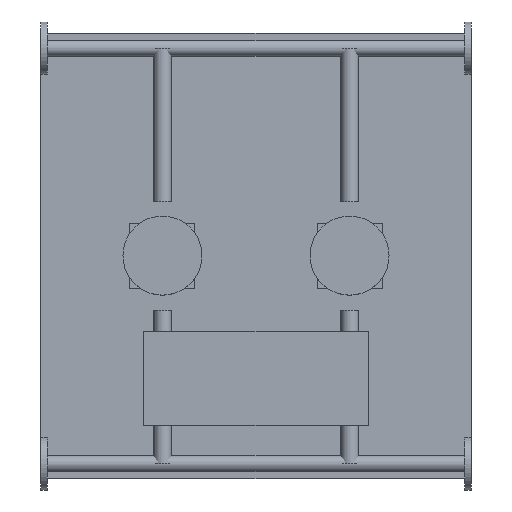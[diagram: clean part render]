
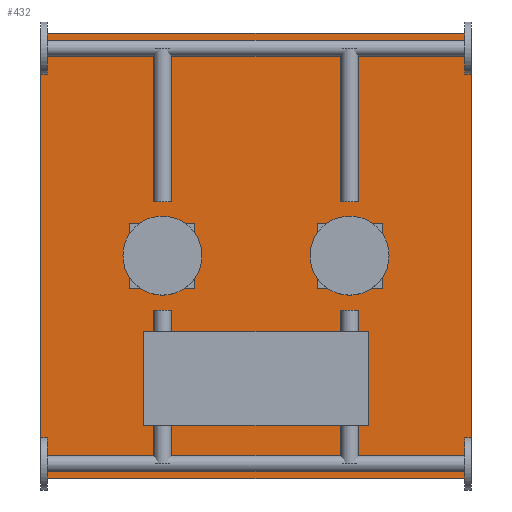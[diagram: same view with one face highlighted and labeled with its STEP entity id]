
A CAD part, top view. The second image highlights one B-rep face of the part: STEP entity #432.
In plain terms, the highlighted planar face has unit normal (0, 0, 1).
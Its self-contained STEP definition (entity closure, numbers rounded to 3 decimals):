
#118 = VERTEX_POINT('',#119);
#119 = CARTESIAN_POINT('',(0.,30.,120.));
#126 = PLANE('',#127);
#127 = AXIS2_PLACEMENT_3D('',#128,#129,#130);
#128 = CARTESIAN_POINT('',(0.,30.,0.));
#129 = DIRECTION('',(1.,0.,0.));
#130 = DIRECTION('',(0.,0.,1.));
#138 = PLANE('',#139);
#139 = AXIS2_PLACEMENT_3D('',#140,#141,#142);
#140 = CARTESIAN_POINT('',(0.,30.,0.));
#141 = DIRECTION('',(0.,1.,0.));
#142 = DIRECTION('',(0.,0.,1.));
#179 = VERTEX_POINT('',#180);
#180 = CARTESIAN_POINT('',(0.,1220.,120.));
#194 = PLANE('',#195);
#195 = AXIS2_PLACEMENT_3D('',#196,#197,#198);
#196 = CARTESIAN_POINT('',(0.,1220.,0.));
#197 = DIRECTION('',(0.,1.,0.));
#198 = DIRECTION('',(0.,0.,1.));
#206 = EDGE_CURVE('',#118,#179,#207,.T.);
#207 = SURFACE_CURVE('',#208,(#212,#219),.PCURVE_S1.);
#208 = LINE('',#209,#210);
#209 = CARTESIAN_POINT('',(0.,30.,120.));
#210 = VECTOR('',#211,1.);
#211 = DIRECTION('',(0.,1.,0.));
#212 = PCURVE('',#126,#213);
#213 = DEFINITIONAL_REPRESENTATION('',(#214),#218);
#214 = LINE('',#215,#216);
#215 = CARTESIAN_POINT('',(120.,0.));
#216 = VECTOR('',#217,1.);
#217 = DIRECTION('',(0.,-1.));
#218 = ( GEOMETRIC_REPRESENTATION_CONTEXT(2) 
PARAMETRIC_REPRESENTATION_CONTEXT() REPRESENTATION_CONTEXT('2D SPACE',''
  ) );
#219 = PCURVE('',#220,#225);
#220 = PLANE('',#221);
#221 = AXIS2_PLACEMENT_3D('',#222,#223,#224);
#222 = CARTESIAN_POINT('',(0.,30.,120.));
#223 = DIRECTION('',(0.,0.,1.));
#224 = DIRECTION('',(1.,0.,0.));
#225 = DEFINITIONAL_REPRESENTATION('',(#226),#230);
#226 = LINE('',#227,#228);
#227 = CARTESIAN_POINT('',(0.,0.));
#228 = VECTOR('',#229,1.);
#229 = DIRECTION('',(0.,1.));
#230 = ( GEOMETRIC_REPRESENTATION_CONTEXT(2) 
PARAMETRIC_REPRESENTATION_CONTEXT() REPRESENTATION_CONTEXT('2D SPACE',''
  ) );
#238 = VERTEX_POINT('',#239);
#239 = CARTESIAN_POINT('',(1150.,30.,120.));
#246 = PLANE('',#247);
#247 = AXIS2_PLACEMENT_3D('',#248,#249,#250);
#248 = CARTESIAN_POINT('',(1150.,30.,0.));
#249 = DIRECTION('',(1.,0.,0.));
#250 = DIRECTION('',(0.,0.,1.));
#289 = VERTEX_POINT('',#290);
#290 = CARTESIAN_POINT('',(1150.,1220.,120.));
#311 = EDGE_CURVE('',#238,#289,#312,.T.);
#312 = SURFACE_CURVE('',#313,(#317,#324),.PCURVE_S1.);
#313 = LINE('',#314,#315);
#314 = CARTESIAN_POINT('',(1150.,30.,120.));
#315 = VECTOR('',#316,1.);
#316 = DIRECTION('',(0.,1.,0.));
#317 = PCURVE('',#246,#318);
#318 = DEFINITIONAL_REPRESENTATION('',(#319),#323);
#319 = LINE('',#320,#321);
#320 = CARTESIAN_POINT('',(120.,0.));
#321 = VECTOR('',#322,1.);
#322 = DIRECTION('',(0.,-1.));
#323 = ( GEOMETRIC_REPRESENTATION_CONTEXT(2) 
PARAMETRIC_REPRESENTATION_CONTEXT() REPRESENTATION_CONTEXT('2D SPACE',''
  ) );
#324 = PCURVE('',#220,#325);
#325 = DEFINITIONAL_REPRESENTATION('',(#326),#330);
#326 = LINE('',#327,#328);
#327 = CARTESIAN_POINT('',(1150.,0.));
#328 = VECTOR('',#329,1.);
#329 = DIRECTION('',(0.,1.));
#330 = ( GEOMETRIC_REPRESENTATION_CONTEXT(2) 
PARAMETRIC_REPRESENTATION_CONTEXT() REPRESENTATION_CONTEXT('2D SPACE',''
  ) );
#357 = EDGE_CURVE('',#118,#238,#358,.T.);
#358 = SURFACE_CURVE('',#359,(#363,#370),.PCURVE_S1.);
#359 = LINE('',#360,#361);
#360 = CARTESIAN_POINT('',(0.,30.,120.));
#361 = VECTOR('',#362,1.);
#362 = DIRECTION('',(1.,0.,0.));
#363 = PCURVE('',#138,#364);
#364 = DEFINITIONAL_REPRESENTATION('',(#365),#369);
#365 = LINE('',#366,#367);
#366 = CARTESIAN_POINT('',(120.,0.));
#367 = VECTOR('',#368,1.);
#368 = DIRECTION('',(0.,1.));
#369 = ( GEOMETRIC_REPRESENTATION_CONTEXT(2) 
PARAMETRIC_REPRESENTATION_CONTEXT() REPRESENTATION_CONTEXT('2D SPACE',''
  ) );
#370 = PCURVE('',#220,#371);
#371 = DEFINITIONAL_REPRESENTATION('',(#372),#376);
#372 = LINE('',#373,#374);
#373 = CARTESIAN_POINT('',(0.,0.));
#374 = VECTOR('',#375,1.);
#375 = DIRECTION('',(1.,0.));
#376 = ( GEOMETRIC_REPRESENTATION_CONTEXT(2) 
PARAMETRIC_REPRESENTATION_CONTEXT() REPRESENTATION_CONTEXT('2D SPACE',''
  ) );
#404 = EDGE_CURVE('',#179,#289,#405,.T.);
#405 = SURFACE_CURVE('',#406,(#410,#417),.PCURVE_S1.);
#406 = LINE('',#407,#408);
#407 = CARTESIAN_POINT('',(0.,1220.,120.));
#408 = VECTOR('',#409,1.);
#409 = DIRECTION('',(1.,0.,0.));
#410 = PCURVE('',#194,#411);
#411 = DEFINITIONAL_REPRESENTATION('',(#412),#416);
#412 = LINE('',#413,#414);
#413 = CARTESIAN_POINT('',(120.,0.));
#414 = VECTOR('',#415,1.);
#415 = DIRECTION('',(0.,1.));
#416 = ( GEOMETRIC_REPRESENTATION_CONTEXT(2) 
PARAMETRIC_REPRESENTATION_CONTEXT() REPRESENTATION_CONTEXT('2D SPACE',''
  ) );
#417 = PCURVE('',#220,#418);
#418 = DEFINITIONAL_REPRESENTATION('',(#419),#423);
#419 = LINE('',#420,#421);
#420 = CARTESIAN_POINT('',(0.,1190.));
#421 = VECTOR('',#422,1.);
#422 = DIRECTION('',(1.,0.));
#423 = ( GEOMETRIC_REPRESENTATION_CONTEXT(2) 
PARAMETRIC_REPRESENTATION_CONTEXT() REPRESENTATION_CONTEXT('2D SPACE',''
  ) );
#432 = ADVANCED_FACE('',(#433),#220,.T.);
#433 = FACE_BOUND('',#434,.T.);
#434 = EDGE_LOOP('',(#435,#436,#437,#438));
#435 = ORIENTED_EDGE('',*,*,#206,.F.);
#436 = ORIENTED_EDGE('',*,*,#357,.T.);
#437 = ORIENTED_EDGE('',*,*,#311,.T.);
#438 = ORIENTED_EDGE('',*,*,#404,.F.);
